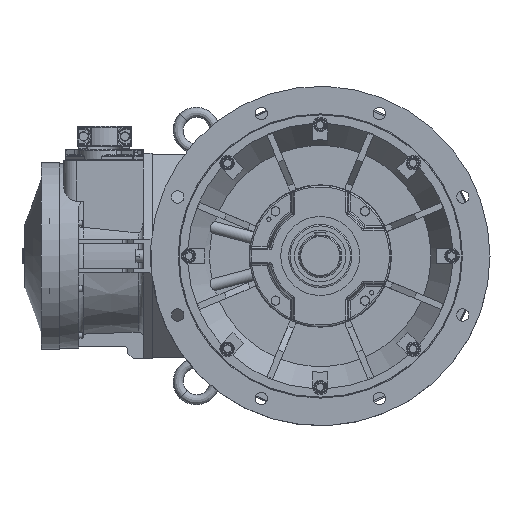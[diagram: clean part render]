
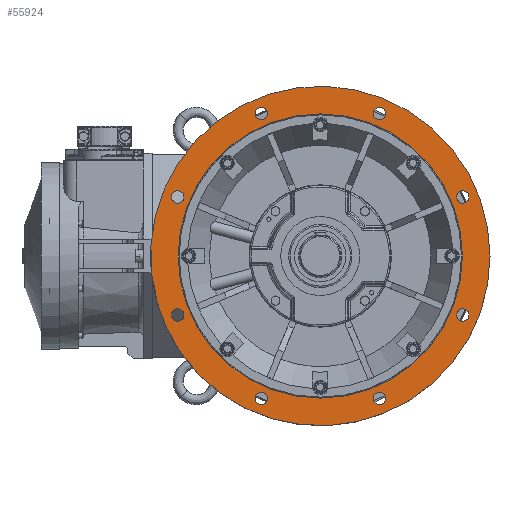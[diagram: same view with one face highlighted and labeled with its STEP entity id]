
A CAD part, left-side view. The second image highlights one B-rep face of the part: STEP entity #55924.
In plain terms, the highlighted planar face has unit normal (-1, 0, 0).
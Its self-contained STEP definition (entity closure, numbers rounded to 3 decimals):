
#16923=ORIENTED_EDGE('',*,*,#23603,.F.);
#16924=ORIENTED_EDGE('',*,*,#23605,.F.);
#16925=ORIENTED_EDGE('',*,*,#23607,.F.);
#16926=ORIENTED_EDGE('',*,*,#23609,.F.);
#16927=ORIENTED_EDGE('',*,*,#23611,.F.);
#16928=ORIENTED_EDGE('',*,*,#23613,.F.);
#16929=ORIENTED_EDGE('',*,*,#23615,.F.);
#16930=ORIENTED_EDGE('',*,*,#23617,.F.);
#16931=ORIENTED_EDGE('',*,*,#23637,.F.);
#16932=ORIENTED_EDGE('',*,*,#23638,.T.);
#23603=EDGE_CURVE('',#27644,#27644,#29822,.T.);
#23605=EDGE_CURVE('',#27646,#27646,#29824,.T.);
#23607=EDGE_CURVE('',#27648,#27648,#29826,.T.);
#23609=EDGE_CURVE('',#27650,#27650,#29828,.T.);
#23611=EDGE_CURVE('',#27652,#27652,#29830,.T.);
#23613=EDGE_CURVE('',#27654,#27654,#29832,.T.);
#23615=EDGE_CURVE('',#27656,#27656,#29834,.T.);
#23617=EDGE_CURVE('',#27658,#27658,#29836,.T.);
#23637=EDGE_CURVE('',#27678,#27678,#29856,.T.);
#23638=EDGE_CURVE('',#27679,#27679,#29857,.F.);
#27644=VERTEX_POINT('',#90591);
#27646=VERTEX_POINT('',#90596);
#27648=VERTEX_POINT('',#90601);
#27650=VERTEX_POINT('',#90606);
#27652=VERTEX_POINT('',#90611);
#27654=VERTEX_POINT('',#90616);
#27656=VERTEX_POINT('',#90621);
#27658=VERTEX_POINT('',#90626);
#27678=VERTEX_POINT('',#90684);
#27679=VERTEX_POINT('',#90686);
#29822=CIRCLE('',#59796,12.);
#29824=CIRCLE('',#59799,12.);
#29826=CIRCLE('',#59802,12.);
#29828=CIRCLE('',#59805,12.);
#29830=CIRCLE('',#59808,12.);
#29832=CIRCLE('',#59811,12.);
#29834=CIRCLE('',#59814,12.);
#29836=CIRCLE('',#59817,12.);
#29856=CIRCLE('',#59855,276.402);
#29857=CIRCLE('',#59856,330.);
#32392=EDGE_LOOP('',(#16923));
#32393=EDGE_LOOP('',(#16924));
#32394=EDGE_LOOP('',(#16925));
#32395=EDGE_LOOP('',(#16926));
#32396=EDGE_LOOP('',(#16927));
#32397=EDGE_LOOP('',(#16928));
#32398=EDGE_LOOP('',(#16929));
#32399=EDGE_LOOP('',(#16930));
#32400=EDGE_LOOP('',(#16931));
#32401=EDGE_LOOP('',(#16932));
#35339=FACE_BOUND('',#32392,.T.);
#35340=FACE_BOUND('',#32393,.T.);
#35341=FACE_BOUND('',#32394,.T.);
#35342=FACE_BOUND('',#32395,.T.);
#35343=FACE_BOUND('',#32396,.T.);
#35344=FACE_BOUND('',#32397,.T.);
#35345=FACE_BOUND('',#32398,.T.);
#35346=FACE_BOUND('',#32399,.T.);
#35347=FACE_BOUND('',#32400,.T.);
#35348=FACE_BOUND('',#32401,.T.);
#37064=PLANE('',#59854);
#55924=ADVANCED_FACE('',(#35339,#35340,#35341,#35342,#35343,#35344,#35345,
#35346,#35347,#35348),#37064,.F.);
#59796=AXIS2_PLACEMENT_3D('',#90590,#69742,#69743);
#59799=AXIS2_PLACEMENT_3D('',#90595,#69748,#69749);
#59802=AXIS2_PLACEMENT_3D('',#90600,#69754,#69755);
#59805=AXIS2_PLACEMENT_3D('',#90605,#69760,#69761);
#59808=AXIS2_PLACEMENT_3D('',#90610,#69766,#69767);
#59811=AXIS2_PLACEMENT_3D('',#90615,#69772,#69773);
#59814=AXIS2_PLACEMENT_3D('',#90620,#69778,#69779);
#59817=AXIS2_PLACEMENT_3D('',#90625,#69784,#69785);
#59854=AXIS2_PLACEMENT_3D('',#90682,#69858,#69859);
#59855=AXIS2_PLACEMENT_3D('',#90683,#69860,#69861);
#59856=AXIS2_PLACEMENT_3D('',#90685,#69862,#69863);
#69742=DIRECTION('',(-1.,0.,0.));
#69743=DIRECTION('',(0.,0.,1.));
#69748=DIRECTION('',(-1.,0.,0.));
#69749=DIRECTION('',(0.,0.,1.));
#69754=DIRECTION('',(-1.,0.,0.));
#69755=DIRECTION('',(0.,0.,1.));
#69760=DIRECTION('',(-1.,0.,0.));
#69761=DIRECTION('',(0.,0.,1.));
#69766=DIRECTION('',(-1.,0.,0.));
#69767=DIRECTION('',(0.,0.,1.));
#69772=DIRECTION('',(-1.,0.,0.));
#69773=DIRECTION('',(0.,0.,1.));
#69778=DIRECTION('',(-1.,0.,0.));
#69779=DIRECTION('',(0.,0.,1.));
#69784=DIRECTION('',(-1.,0.,0.));
#69785=DIRECTION('',(0.,0.,1.));
#69858=DIRECTION('',(1.,0.,0.));
#69859=DIRECTION('',(0.,-1.,0.));
#69860=DIRECTION('',(-1.,0.,0.));
#69861=DIRECTION('',(0.,1.,0.));
#69862=DIRECTION('',(1.,0.,0.));
#69863=DIRECTION('',(0.,-1.,0.));
#90590=CARTESIAN_POINT('',(-89.5,114.805,277.164));
#90591=CARTESIAN_POINT('',(-89.5,114.805,289.164));
#90595=CARTESIAN_POINT('',(-89.5,-114.805,277.164));
#90596=CARTESIAN_POINT('',(-89.5,-114.805,289.164));
#90600=CARTESIAN_POINT('',(-89.5,-277.164,114.805));
#90601=CARTESIAN_POINT('',(-89.5,-277.164,126.805));
#90605=CARTESIAN_POINT('',(-89.5,-277.164,-114.805));
#90606=CARTESIAN_POINT('',(-89.5,-277.164,-102.805));
#90610=CARTESIAN_POINT('',(-89.5,-114.805,-277.164));
#90611=CARTESIAN_POINT('',(-89.5,-114.805,-265.164));
#90615=CARTESIAN_POINT('',(-89.5,114.805,-277.164));
#90616=CARTESIAN_POINT('',(-89.5,114.805,-265.164));
#90620=CARTESIAN_POINT('',(-89.5,277.164,-114.805));
#90621=CARTESIAN_POINT('',(-89.5,277.164,-102.805));
#90625=CARTESIAN_POINT('',(-89.5,277.164,114.805));
#90626=CARTESIAN_POINT('',(-89.5,277.164,126.805));
#90682=CARTESIAN_POINT('',(-89.5,276.402,0.));
#90683=CARTESIAN_POINT('',(-89.5,0.,0.));
#90684=CARTESIAN_POINT('',(-89.5,276.402,0.));
#90685=CARTESIAN_POINT('',(-89.5,0.,0.));
#90686=CARTESIAN_POINT('',(-89.5,-330.,0.));
